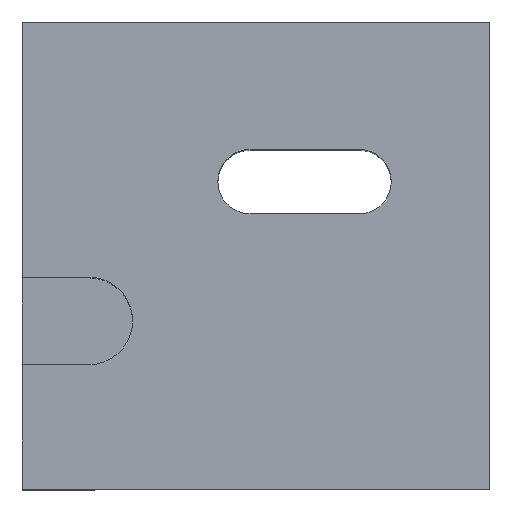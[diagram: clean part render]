
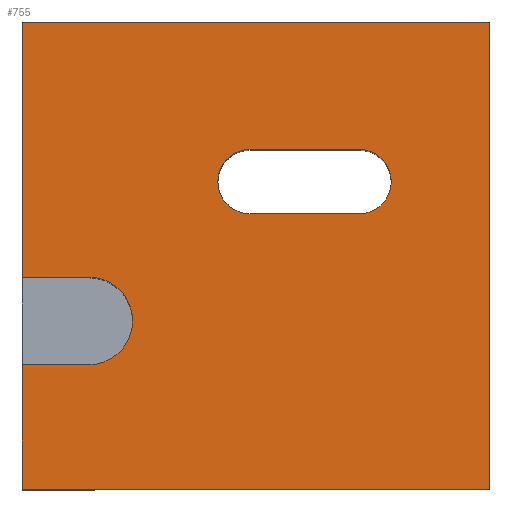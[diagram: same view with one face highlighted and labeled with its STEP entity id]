
A CAD part, top view. The second image highlights one B-rep face of the part: STEP entity #755.
In plain terms, the highlighted planar face has unit normal (0, 0, 1).
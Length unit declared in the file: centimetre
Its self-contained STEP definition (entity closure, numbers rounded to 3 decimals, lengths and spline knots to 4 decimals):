
#6 = VERTEX_POINT ( 'NONE', #693 ) ;
#8 = LINE ( 'NONE', #76, #685 ) ;
#9 = CIRCLE ( 'NONE', #788, 68.8296 ) ;
#12 = DIRECTION ( 'NONE',  ( 0., 0., -1. ) ) ;
#33 = EDGE_LOOP ( 'NONE', ( #387, #318, #699, #322, #69 ) ) ;
#39 = DIRECTION ( 'NONE',  ( 0., -1., 0. ) ) ;
#51 = AXIS2_PLACEMENT_3D ( 'NONE', #220, #602, #230 ) ;
#53 = EDGE_LOOP ( 'NONE', ( #531, #211, #175, #822, #673, #298, #255, #804, #310 ) ) ;
#55 = VECTOR ( 'NONE', #39, 100. ) ;
#63 = LINE ( 'NONE', #146, #498 ) ;
#68 = DIRECTION ( 'NONE',  ( 0., 0., -1. ) ) ;
#69 = ORIENTED_EDGE ( 'NONE', *, *, #695, .T. ) ;
#76 = CARTESIAN_POINT ( 'NONE',  ( 0., 266.4306, 1000. ) ) ;
#81 = CARTESIAN_POINT ( 'NONE',  ( 142.041, 360.2136, 1000. ) ) ;
#85 = CARTESIAN_POINT ( 'NONE',  ( 0., 0., 1000. ) ) ;
#88 = VECTOR ( 'NONE', #417, 100. ) ;
#92 = EDGE_CURVE ( 'NONE', #590, #701, #105, .T. ) ;
#101 = VECTOR ( 'NONE', #159, 100. ) ;
#105 = CIRCLE ( 'NONE', #418, 93.783 ) ;
#122 = VERTEX_POINT ( 'NONE', #515 ) ;
#135 = AXIS2_PLACEMENT_3D ( 'NONE', #616, #806, #155 ) ;
#145 = CARTESIAN_POINT ( 'NONE',  ( 1000., 1000., 1000. ) ) ;
#146 = CARTESIAN_POINT ( 'NONE',  ( 0., 1000., 1000. ) ) ;
#149 = DIRECTION ( 'NONE',  ( 1., 0., 0. ) ) ;
#155 = DIRECTION ( 'NONE',  ( 1., 0., 0. ) ) ;
#159 = DIRECTION ( 'NONE',  ( 1., 0., 0. ) ) ;
#162 = DIRECTION ( 'NONE',  ( 1., 0., 0. ) ) ;
#163 = CARTESIAN_POINT ( 'NONE',  ( 235.8239, 360.2136, 1000. ) ) ;
#171 = VERTEX_POINT ( 'NONE', #846 ) ;
#175 = ORIENTED_EDGE ( 'NONE', *, *, #92, .F. ) ;
#179 = VECTOR ( 'NONE', #162, 100. ) ;
#185 = CARTESIAN_POINT ( 'NONE',  ( 142.041, 360.2136, 1000. ) ) ;
#192 = CARTESIAN_POINT ( 'NONE',  ( 487.1897, 589.4128, 1000. ) ) ;
#193 = VERTEX_POINT ( 'NONE', #782 ) ;
#198 = CARTESIAN_POINT ( 'NONE',  ( 487.1897, 658.2424, 1000. ) ) ;
#211 = ORIENTED_EDGE ( 'NONE', *, *, #767, .F. ) ;
#214 = CARTESIAN_POINT ( 'NONE',  ( 1000., 0., 1000. ) ) ;
#220 = CARTESIAN_POINT ( 'NONE',  ( 0., 0., 1000. ) ) ;
#221 = CARTESIAN_POINT ( 'NONE',  ( 0., 453.9965, 1000. ) ) ;
#222 = LINE ( 'NONE', #676, #250 ) ;
#226 = CIRCLE ( 'NONE', #536, 68.8296 ) ;
#230 = DIRECTION ( 'NONE',  ( 1., 0., 0. ) ) ;
#234 = LINE ( 'NONE', #244, #55 ) ;
#244 = CARTESIAN_POINT ( 'NONE',  ( 0., 1000., 1000. ) ) ;
#249 = CIRCLE ( 'NONE', #719, 93.783 ) ;
#250 = VECTOR ( 'NONE', #621, 100. ) ;
#254 = CARTESIAN_POINT ( 'NONE',  ( 0., 1000., 1000. ) ) ;
#255 = ORIENTED_EDGE ( 'NONE', *, *, #336, .T. ) ;
#258 = VERTEX_POINT ( 'NONE', #779 ) ;
#265 = CARTESIAN_POINT ( 'NONE',  ( 0., 0., 1000. ) ) ;
#273 = DIRECTION ( 'NONE',  ( -1., 0., 0. ) ) ;
#298 = ORIENTED_EDGE ( 'NONE', *, *, #702, .T. ) ;
#304 = VERTEX_POINT ( 'NONE', #192 ) ;
#310 = ORIENTED_EDGE ( 'NONE', *, *, #529, .T. ) ;
#318 = ORIENTED_EDGE ( 'NONE', *, *, #783, .T. ) ;
#322 = ORIENTED_EDGE ( 'NONE', *, *, #632, .T. ) ;
#327 = DIRECTION ( 'NONE',  ( 0., -1., 0. ) ) ;
#336 = EDGE_CURVE ( 'NONE', #799, #763, #477, .T. ) ;
#341 = PLANE ( 'NONE',  #51 ) ;
#351 = VERTEX_POINT ( 'NONE', #221 ) ;
#359 = CARTESIAN_POINT ( 'NONE',  ( 487.1897, 727.072, 1000. ) ) ;
#379 = LINE ( 'NONE', #254, #587 ) ;
#387 = ORIENTED_EDGE ( 'NONE', *, *, #551, .T. ) ;
#402 = DIRECTION ( 'NONE',  ( 1., 0., 0. ) ) ;
#404 = EDGE_CURVE ( 'NONE', #446, #351, #499, .T. ) ;
#417 = DIRECTION ( 'NONE',  ( 0., 1., 0. ) ) ;
#418 = AXIS2_PLACEMENT_3D ( 'NONE', #185, #437, #627 ) ;
#426 = FACE_BOUND ( 'NONE', #33, .T. ) ;
#437 = DIRECTION ( 'NONE',  ( 0., 0., 1. ) ) ;
#446 = VERTEX_POINT ( 'NONE', #624 ) ;
#451 = EDGE_CURVE ( 'NONE', #6, #519, #234, .T. ) ;
#463 = DIRECTION ( 'NONE',  ( 1., 0., 0. ) ) ;
#471 = LINE ( 'NONE', #487, #179 ) ;
#477 = LINE ( 'NONE', #145, #88 ) ;
#487 = CARTESIAN_POINT ( 'NONE',  ( 720.6877, 727.072, 1000. ) ) ;
#498 = VECTOR ( 'NONE', #327, 100. ) ;
#499 = LINE ( 'NONE', #751, #721 ) ;
#507 = CIRCLE ( 'NONE', #135, 68.8296 ) ;
#514 = CARTESIAN_POINT ( 'NONE',  ( 720.6877, 658.2424, 1000. ) ) ;
#515 = CARTESIAN_POINT ( 'NONE',  ( 720.6877, 589.4128, 1000. ) ) ;
#519 = VERTEX_POINT ( 'NONE', #265 ) ;
#529 = EDGE_CURVE ( 'NONE', #193, #351, #63, .T. ) ;
#531 = ORIENTED_EDGE ( 'NONE', *, *, #404, .F. ) ;
#536 = AXIS2_PLACEMENT_3D ( 'NONE', #514, #12, #402 ) ;
#551 = EDGE_CURVE ( 'NONE', #304, #258, #9, .T. ) ;
#552 = DIRECTION ( 'NONE',  ( 0., 0., 1. ) ) ;
#576 = CARTESIAN_POINT ( 'NONE',  ( 142.041, 266.4306, 1000. ) ) ;
#587 = VECTOR ( 'NONE', #273, 100. ) ;
#590 = VERTEX_POINT ( 'NONE', #576 ) ;
#602 = DIRECTION ( 'NONE',  ( 0., 0., 1. ) ) ;
#605 = EDGE_CURVE ( 'NONE', #763, #193, #379, .T. ) ;
#616 = CARTESIAN_POINT ( 'NONE',  ( 487.1897, 658.2424, 1000. ) ) ;
#620 = DIRECTION ( 'NONE',  ( 1., 0., 0. ) ) ;
#621 = DIRECTION ( 'NONE',  ( -1., 0., 0. ) ) ;
#624 = CARTESIAN_POINT ( 'NONE',  ( 142.041, 453.9965, 1000. ) ) ;
#627 = DIRECTION ( 'NONE',  ( 1., 0., 0. ) ) ;
#632 = EDGE_CURVE ( 'NONE', #171, #122, #226, .T. ) ;
#665 = VERTEX_POINT ( 'NONE', #359 ) ;
#673 = ORIENTED_EDGE ( 'NONE', *, *, #451, .T. ) ;
#676 = CARTESIAN_POINT ( 'NONE',  ( 487.1897, 589.4128, 1000. ) ) ;
#679 = CARTESIAN_POINT ( 'NONE',  ( 1000., 1000., 1000. ) ) ;
#680 = LINE ( 'NONE', #85, #101 ) ;
#685 = VECTOR ( 'NONE', #620, 100. ) ;
#690 = DIRECTION ( 'NONE',  ( -1., 0., 0. ) ) ;
#693 = CARTESIAN_POINT ( 'NONE',  ( 0., 266.4306, 1000. ) ) ;
#695 = EDGE_CURVE ( 'NONE', #122, #304, #222, .T. ) ;
#699 = ORIENTED_EDGE ( 'NONE', *, *, #845, .T. ) ;
#701 = VERTEX_POINT ( 'NONE', #163 ) ;
#702 = EDGE_CURVE ( 'NONE', #519, #799, #680, .T. ) ;
#719 = AXIS2_PLACEMENT_3D ( 'NONE', #81, #552, #149 ) ;
#721 = VECTOR ( 'NONE', #690, 100. ) ;
#748 = EDGE_CURVE ( 'NONE', #6, #590, #8, .T. ) ;
#751 = CARTESIAN_POINT ( 'NONE',  ( 142.041, 453.9965, 1000. ) ) ;
#755 = ADVANCED_FACE ( 'NONE', ( #801, #426 ), #341, .T. ) ;
#763 = VERTEX_POINT ( 'NONE', #679 ) ;
#767 = EDGE_CURVE ( 'NONE', #701, #446, #249, .T. ) ;
#779 = CARTESIAN_POINT ( 'NONE',  ( 418.36, 658.2424, 1000. ) ) ;
#782 = CARTESIAN_POINT ( 'NONE',  ( 0., 1000., 1000. ) ) ;
#783 = EDGE_CURVE ( 'NONE', #258, #665, #507, .T. ) ;
#788 = AXIS2_PLACEMENT_3D ( 'NONE', #198, #68, #463 ) ;
#799 = VERTEX_POINT ( 'NONE', #214 ) ;
#801 = FACE_OUTER_BOUND ( 'NONE', #53, .T. ) ;
#804 = ORIENTED_EDGE ( 'NONE', *, *, #605, .T. ) ;
#806 = DIRECTION ( 'NONE',  ( 0., 0., -1. ) ) ;
#822 = ORIENTED_EDGE ( 'NONE', *, *, #748, .F. ) ;
#845 = EDGE_CURVE ( 'NONE', #665, #171, #471, .T. ) ;
#846 = CARTESIAN_POINT ( 'NONE',  ( 720.6877, 727.072, 1000. ) ) ;
